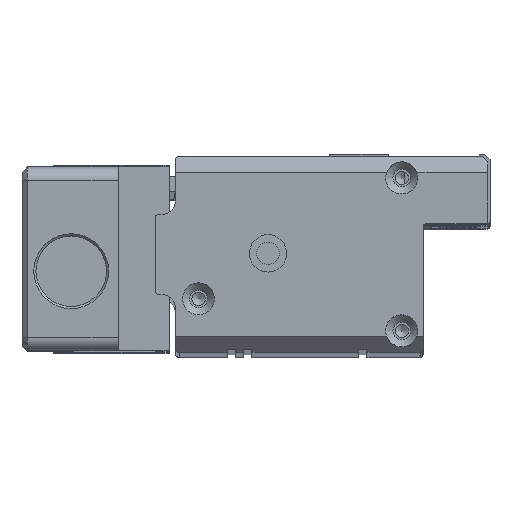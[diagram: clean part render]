
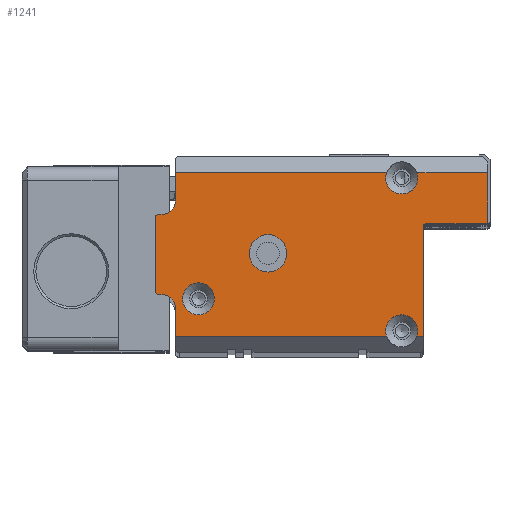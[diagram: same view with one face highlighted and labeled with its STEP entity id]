
A CAD part, top view. The second image highlights one B-rep face of the part: STEP entity #1241.
In plain terms, the highlighted planar face has unit normal (0, 0, 1).
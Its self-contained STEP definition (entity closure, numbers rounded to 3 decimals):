
#1241=ADVANCED_FACE('',(#1930,#1931,#1932),#1675,.T.);
#1675=PLANE('',#11366);
#1930=FACE_BOUND('',#2455,.T.);
#1931=FACE_BOUND('',#2456,.T.);
#1932=FACE_BOUND('',#2457,.T.);
#2455=EDGE_LOOP('',(#6704));
#2456=EDGE_LOOP('',(#6705,#6706,#6707,#6708,#6709,#6710,#6711,#6712,#6713,
#6714,#6715,#6716,#6717,#6718,#6719,#6720,#6721,#6722,#6723,#6724));
#2457=EDGE_LOOP('',(#6725));
#3387=LINE('',#16978,#4403);
#3388=LINE('',#16980,#4404);
#3389=LINE('',#16984,#4405);
#3390=LINE('',#16988,#4406);
#3391=LINE('',#16990,#4407);
#3392=LINE('',#16994,#4408);
#3393=LINE('',#16996,#4409);
#3394=LINE('',#17000,#4410);
#3395=LINE('',#17004,#4411);
#3396=LINE('',#17008,#4412);
#3397=LINE('',#17012,#4413);
#3398=LINE('',#17014,#4414);
#4403=VECTOR('',#13612,1.);
#4404=VECTOR('',#13613,1.);
#4405=VECTOR('',#13616,1.);
#4406=VECTOR('',#13619,1.);
#4407=VECTOR('',#13620,1.);
#4408=VECTOR('',#13623,1.);
#4409=VECTOR('',#13624,1.);
#4410=VECTOR('',#13627,1.);
#4411=VECTOR('',#13630,1.);
#4412=VECTOR('',#13633,1.);
#4413=VECTOR('',#13636,1.);
#4414=VECTOR('',#13637,1.);
#6704=ORIENTED_EDGE('',*,*,#9800,.T.);
#6705=ORIENTED_EDGE('',*,*,#9801,.T.);
#6706=ORIENTED_EDGE('',*,*,#9802,.T.);
#6707=ORIENTED_EDGE('',*,*,#9803,.T.);
#6708=ORIENTED_EDGE('',*,*,#9804,.T.);
#6709=ORIENTED_EDGE('',*,*,#9805,.T.);
#6710=ORIENTED_EDGE('',*,*,#9806,.T.);
#6711=ORIENTED_EDGE('',*,*,#9807,.T.);
#6712=ORIENTED_EDGE('',*,*,#9808,.T.);
#6713=ORIENTED_EDGE('',*,*,#9809,.T.);
#6714=ORIENTED_EDGE('',*,*,#9810,.T.);
#6715=ORIENTED_EDGE('',*,*,#9811,.T.);
#6716=ORIENTED_EDGE('',*,*,#9812,.T.);
#6717=ORIENTED_EDGE('',*,*,#9813,.T.);
#6718=ORIENTED_EDGE('',*,*,#9814,.T.);
#6719=ORIENTED_EDGE('',*,*,#9815,.T.);
#6720=ORIENTED_EDGE('',*,*,#9816,.T.);
#6721=ORIENTED_EDGE('',*,*,#9817,.T.);
#6722=ORIENTED_EDGE('',*,*,#9818,.T.);
#6723=ORIENTED_EDGE('',*,*,#9819,.T.);
#6724=ORIENTED_EDGE('',*,*,#9820,.T.);
#6725=ORIENTED_EDGE('',*,*,#9821,.T.);
#8465=VERTEX_POINT('',#16974);
#8466=VERTEX_POINT('',#16976);
#8467=VERTEX_POINT('',#16977);
#8468=VERTEX_POINT('',#16979);
#8469=VERTEX_POINT('',#16981);
#8470=VERTEX_POINT('',#16983);
#8471=VERTEX_POINT('',#16985);
#8472=VERTEX_POINT('',#16987);
#8473=VERTEX_POINT('',#16989);
#8474=VERTEX_POINT('',#16991);
#8475=VERTEX_POINT('',#16993);
#8476=VERTEX_POINT('',#16995);
#8477=VERTEX_POINT('',#16997);
#8478=VERTEX_POINT('',#16999);
#8479=VERTEX_POINT('',#17001);
#8480=VERTEX_POINT('',#17003);
#8481=VERTEX_POINT('',#17005);
#8482=VERTEX_POINT('',#17007);
#8483=VERTEX_POINT('',#17009);
#8484=VERTEX_POINT('',#17011);
#8485=VERTEX_POINT('',#17013);
#8486=VERTEX_POINT('',#17016);
#9800=EDGE_CURVE('',#8465,#8465,#10611,.T.);
#9801=EDGE_CURVE('',#8466,#8467,#10612,.T.);
#9802=EDGE_CURVE('',#8467,#8468,#3387,.T.);
#9803=EDGE_CURVE('',#8468,#8469,#3388,.T.);
#9804=EDGE_CURVE('',#8469,#8470,#10613,.T.);
#9805=EDGE_CURVE('',#8470,#8471,#3389,.T.);
#9806=EDGE_CURVE('',#8471,#8472,#10614,.T.);
#9807=EDGE_CURVE('',#8472,#8473,#3390,.T.);
#9808=EDGE_CURVE('',#8473,#8474,#3391,.T.);
#9809=EDGE_CURVE('',#8474,#8475,#10615,.T.);
#9810=EDGE_CURVE('',#8475,#8476,#3392,.T.);
#9811=EDGE_CURVE('',#8476,#8477,#3393,.T.);
#9812=EDGE_CURVE('',#8477,#8478,#10616,.T.);
#9813=EDGE_CURVE('',#8478,#8479,#3394,.T.);
#9814=EDGE_CURVE('',#8479,#8480,#10617,.T.);
#9815=EDGE_CURVE('',#8480,#8481,#3395,.T.);
#9816=EDGE_CURVE('',#8481,#8482,#10618,.T.);
#9817=EDGE_CURVE('',#8482,#8483,#3396,.T.);
#9818=EDGE_CURVE('',#8483,#8484,#10619,.T.);
#9819=EDGE_CURVE('',#8484,#8485,#3397,.T.);
#9820=EDGE_CURVE('',#8485,#8466,#3398,.T.);
#9821=EDGE_CURVE('',#8486,#8486,#10620,.T.);
#10611=CIRCLE('',#11356,3.);
#10612=CIRCLE('',#11357,3.);
#10613=CIRCLE('',#11358,0.5);
#10614=CIRCLE('',#11359,0.5);
#10615=CIRCLE('',#11360,3.);
#10616=CIRCLE('',#11361,2.5);
#10617=CIRCLE('',#11362,0.5);
#10618=CIRCLE('',#11363,0.5);
#10619=CIRCLE('',#11364,2.5);
#10620=CIRCLE('',#11365,3.5);
#11356=AXIS2_PLACEMENT_3D('',#16973,#13608,#13609);
#11357=AXIS2_PLACEMENT_3D('',#16975,#13610,#13611);
#11358=AXIS2_PLACEMENT_3D('',#16982,#13614,#13615);
#11359=AXIS2_PLACEMENT_3D('',#16986,#13617,#13618);
#11360=AXIS2_PLACEMENT_3D('',#16992,#13621,#13622);
#11361=AXIS2_PLACEMENT_3D('',#16998,#13625,#13626);
#11362=AXIS2_PLACEMENT_3D('',#17002,#13628,#13629);
#11363=AXIS2_PLACEMENT_3D('',#17006,#13631,#13632);
#11364=AXIS2_PLACEMENT_3D('',#17010,#13634,#13635);
#11365=AXIS2_PLACEMENT_3D('',#17015,#13638,#13639);
#11366=AXIS2_PLACEMENT_3D('',#17017,#13640,#13641);
#13608=DIRECTION('',(0.,0.,-1.));
#13609=DIRECTION('',(-1.,0.,0.));
#13610=DIRECTION('',(0.,0.,-1.));
#13611=DIRECTION('',(-1.,0.,0.));
#13612=DIRECTION('',(1.,0.,0.));
#13613=DIRECTION('',(0.,1.,0.));
#13614=DIRECTION('',(0.,0.,-1.));
#13615=DIRECTION('',(1.,0.,0.));
#13616=DIRECTION('',(1.,0.,0.));
#13617=DIRECTION('',(0.,0.,1.));
#13618=DIRECTION('',(1.,0.,0.));
#13619=DIRECTION('',(0.,1.,0.));
#13620=DIRECTION('',(-1.,0.,0.));
#13621=DIRECTION('',(0.,0.,-1.));
#13622=DIRECTION('',(-1.,0.,0.));
#13623=DIRECTION('',(-1.,0.,0.));
#13624=DIRECTION('',(0.,-1.,0.));
#13625=DIRECTION('',(0.,0.,-1.));
#13626=DIRECTION('',(1.,0.,0.));
#13627=DIRECTION('',(-1.,0.,0.));
#13628=DIRECTION('',(0.,0.,1.));
#13629=DIRECTION('',(1.,0.,0.));
#13630=DIRECTION('',(0.,-1.,0.));
#13631=DIRECTION('',(0.,0.,1.));
#13632=DIRECTION('',(1.,0.,0.));
#13633=DIRECTION('',(1.,0.,0.));
#13634=DIRECTION('',(0.,0.,-1.));
#13635=DIRECTION('',(1.,0.,0.));
#13636=DIRECTION('',(0.,-1.,0.));
#13637=DIRECTION('',(1.,0.,0.));
#13638=DIRECTION('',(0.,0.,-1.));
#13639=DIRECTION('',(-1.,0.,0.));
#13640=DIRECTION('',(0.,0.,1.));
#13641=DIRECTION('',(-1.,0.,0.));
#16973=CARTESIAN_POINT('',(8.,-26.6,8.));
#16974=CARTESIAN_POINT('',(5.,-26.6,8.));
#16975=CARTESIAN_POINT('',(46.,-32.6,8.));
#16976=CARTESIAN_POINT('',(43.172,-33.6,8.));
#16977=CARTESIAN_POINT('',(48.828,-33.6,8.));
#16978=CARTESIAN_POINT('',(50.,-33.6,8.));
#16979=CARTESIAN_POINT('',(50.,-33.6,8.));
#16980=CARTESIAN_POINT('',(50.,-36.6,8.));
#16981=CARTESIAN_POINT('',(50.,-13.1,8.));
#16982=CARTESIAN_POINT('',(50.5,-13.1,8.));
#16983=CARTESIAN_POINT('',(50.5,-12.6,8.));
#16984=CARTESIAN_POINT('',(50.,-12.6,8.));
#16985=CARTESIAN_POINT('',(61.6,-12.6,8.));
#16986=CARTESIAN_POINT('',(61.6,-12.1,8.));
#16987=CARTESIAN_POINT('',(62.1,-12.1,8.));
#16988=CARTESIAN_POINT('',(62.1,-12.6,8.));
#16989=CARTESIAN_POINT('',(62.1,-3.,8.));
#16990=CARTESIAN_POINT('',(3.7,-3.,8.));
#16991=CARTESIAN_POINT('',(48.828,-3.,8.));
#16992=CARTESIAN_POINT('',(46.,-4.,8.));
#16993=CARTESIAN_POINT('',(43.172,-3.,8.));
#16994=CARTESIAN_POINT('',(3.7,-3.,8.));
#16995=CARTESIAN_POINT('',(3.7,-3.,8.));
#16996=CARTESIAN_POINT('',(3.7,0.,8.));
#16997=CARTESIAN_POINT('',(3.7,-8.3,8.));
#16998=CARTESIAN_POINT('',(1.2,-8.3,8.));
#16999=CARTESIAN_POINT('',(1.2,-10.8,8.));
#17000=CARTESIAN_POINT('',(3.7,-10.8,8.));
#17001=CARTESIAN_POINT('',(0.5,-10.8,8.));
#17002=CARTESIAN_POINT('',(0.5,-11.3,8.));
#17003=CARTESIAN_POINT('',(0.,-11.3,8.));
#17004=CARTESIAN_POINT('',(0.,-10.8,8.));
#17005=CARTESIAN_POINT('',(0.,-25.3,8.));
#17006=CARTESIAN_POINT('',(0.5,-25.3,8.));
#17007=CARTESIAN_POINT('',(0.5,-25.8,8.));
#17008=CARTESIAN_POINT('',(0.,-25.8,8.));
#17009=CARTESIAN_POINT('',(1.2,-25.8,8.));
#17010=CARTESIAN_POINT('',(1.2,-28.3,8.));
#17011=CARTESIAN_POINT('',(3.7,-28.3,8.));
#17012=CARTESIAN_POINT('',(3.7,-25.8,8.));
#17013=CARTESIAN_POINT('',(3.7,-33.6,8.));
#17014=CARTESIAN_POINT('',(50.,-33.6,8.));
#17015=CARTESIAN_POINT('',(21.,-18.1,8.));
#17016=CARTESIAN_POINT('',(17.5,-18.1,8.));
#17017=CARTESIAN_POINT('',(0.,0.,8.));
